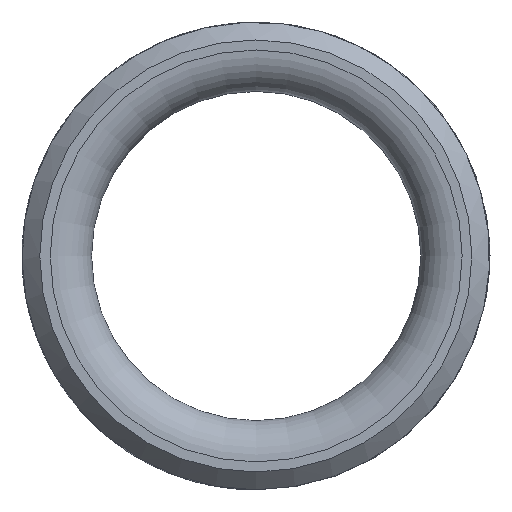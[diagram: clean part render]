
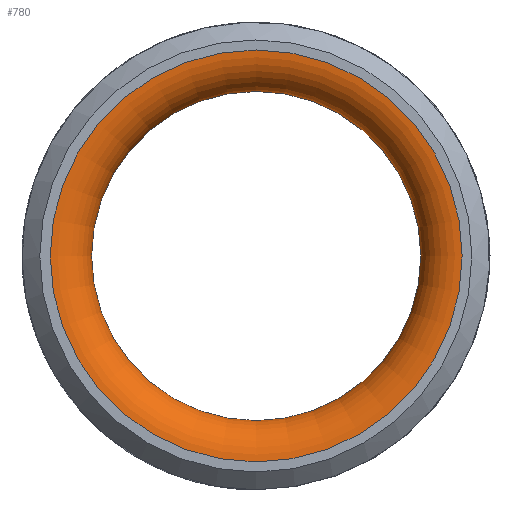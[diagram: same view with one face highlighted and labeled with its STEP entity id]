
A CAD part, top view. The second image highlights one B-rep face of the part: STEP entity #780.
In plain terms, the highlighted toroidal (fillet/blend) face has major radius 42.938 mm and minor radius 8.75 mm.
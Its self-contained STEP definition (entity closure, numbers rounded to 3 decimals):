
#21=TOROIDAL_SURFACE('',#850,42.938,8.75);
#66=FACE_OUTER_BOUND('',#108,.T.);
#108=EDGE_LOOP('',(#610,#611,#612,#613));
#160=CIRCLE('',#851,34.32);
#161=CIRCLE('',#852,8.75);
#162=CIRCLE('',#853,42.938);
#386=VERTEX_POINT('',#1286);
#387=VERTEX_POINT('',#1288);
#474=EDGE_CURVE('',#386,#386,#160,.T.);
#475=EDGE_CURVE('',#386,#387,#161,.T.);
#476=EDGE_CURVE('',#387,#387,#162,.T.);
#610=ORIENTED_EDGE('',*,*,#474,.F.);
#611=ORIENTED_EDGE('',*,*,#475,.T.);
#612=ORIENTED_EDGE('',*,*,#476,.T.);
#613=ORIENTED_EDGE('',*,*,#475,.F.);
#780=ADVANCED_FACE('',(#66),#21,.T.);
#850=AXIS2_PLACEMENT_3D('',#1285,#1004,#1005);
#851=AXIS2_PLACEMENT_3D('',#1287,#1006,#1007);
#852=AXIS2_PLACEMENT_3D('',#1289,#1008,#1009);
#853=AXIS2_PLACEMENT_3D('',#1290,#1010,#1011);
#1004=DIRECTION('center_axis',(0.,0.,
1.));
#1005=DIRECTION('ref_axis',(-1.,0.,0.));
#1006=DIRECTION('center_axis',(0.,0.,
1.));
#1007=DIRECTION('ref_axis',(1.,0.,0.));
#1008=DIRECTION('center_axis',(0.,1.,0.));
#1009=DIRECTION('ref_axis',(1.,0.,0.));
#1010=DIRECTION('center_axis',(0.,0.,
1.));
#1011=DIRECTION('ref_axis',(-1.,0.,0.));
#1285=CARTESIAN_POINT('Origin',(170.83,34.856,-4.714));
#1286=CARTESIAN_POINT('',(205.15,34.856,-3.199));
#1287=CARTESIAN_POINT('Origin',(170.83,34.856,-3.199));
#1288=CARTESIAN_POINT('',(213.768,34.856,4.036));
#1289=CARTESIAN_POINT('Origin',(213.768,34.856,-4.714));
#1290=CARTESIAN_POINT('Origin',(170.83,34.856,4.036));
